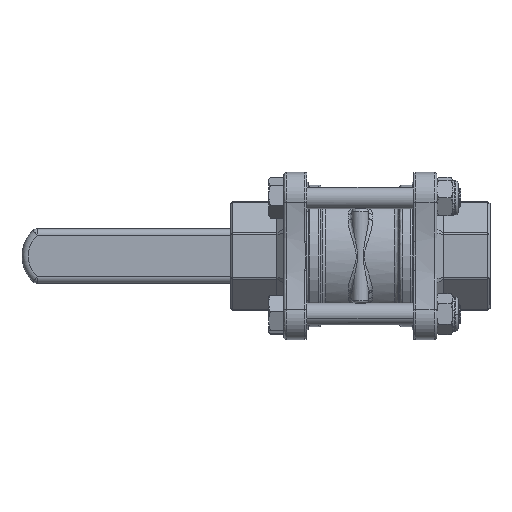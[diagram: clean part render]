
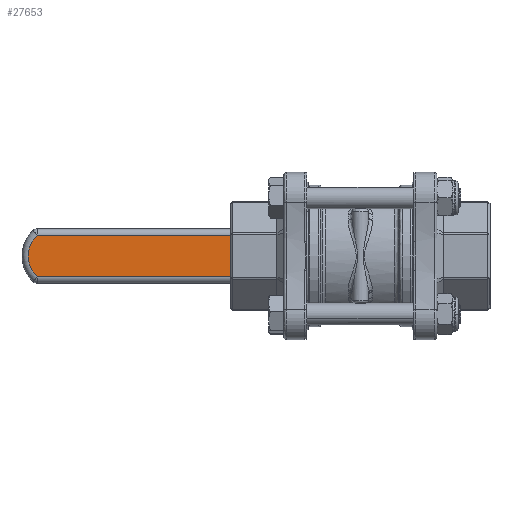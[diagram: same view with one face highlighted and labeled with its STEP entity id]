
A CAD part, front view. The second image highlights one B-rep face of the part: STEP entity #27653.
In plain terms, the highlighted planar face has unit normal (0, -1, 0).
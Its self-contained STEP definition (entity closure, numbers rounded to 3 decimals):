
#5847 = VERTEX_POINT ( 'NONE', #66354 ) ;
#13728 = DIRECTION ( 'NONE',  ( 0., 0., -1. ) ) ;
#13747 = CARTESIAN_POINT ( 'NONE',  ( 0., -2.5, -7.7 ) ) ;
#13781 = CARTESIAN_POINT ( 'NONE',  ( 82., -2.5, -7.7 ) ) ;
#13785 = DIRECTION ( 'NONE',  ( -1., 0., 0. ) ) ;
#13794 = CARTESIAN_POINT ( 'NONE',  ( 82., -2.5, 7.7 ) ) ;
#13797 = CARTESIAN_POINT ( 'NONE',  ( 69., -2.5, 0. ) ) ;
#13800 = DIRECTION ( 'NONE',  ( 0., -1., 0. ) ) ;
#13802 = DIRECTION ( 'NONE',  ( 0., 0., 1. ) ) ;
#13807 = DIRECTION ( 'NONE',  ( -1., 0., 0. ) ) ;
#18472 = ORIENTED_EDGE ( 'NONE', *, *, #69723, .F. ) ;
#18473 = ORIENTED_EDGE ( 'NONE', *, *, #69724, .T. ) ;
#18474 = ORIENTED_EDGE ( 'NONE', *, *, #69726, .T. ) ;
#18475 = ORIENTED_EDGE ( 'NONE', *, *, #69720, .T. ) ;
#27653 = ADVANCED_FACE ( 'NONE', ( #35515 ), #52931, .F. ) ;
#35515 = FACE_OUTER_BOUND ( 'NONE', #80173, .T. ) ;
#36428 = VERTEX_POINT ( 'NONE', #53139 ) ;
#41123 = LINE ( 'NONE', #13747, #41136 ) ;
#41133 = LINE ( 'NONE', #13794, #41157 ) ;
#41136 = VECTOR ( 'NONE', #13728, 1000. ) ;
#41140 = LINE ( 'NONE', #13781, #41146 ) ;
#41144 = CIRCLE ( 'NONE', #51148, 10.7 ) ;
#41146 = VECTOR ( 'NONE', #13785, 1000. ) ;
#41157 = VECTOR ( 'NONE', #13807, 1000. ) ;
#50850 = AXIS2_PLACEMENT_3D ( 'NONE', #52920, #52935, #52937 ) ;
#51148 = AXIS2_PLACEMENT_3D ( 'NONE', #13797, #13800, #13802 ) ;
#52920 = CARTESIAN_POINT ( 'NONE',  ( 82., -2.5, -7.7 ) ) ;
#52931 = PLANE ( 'NONE',  #50850 ) ;
#52935 = DIRECTION ( 'NONE',  ( 0., 1., 0. ) ) ;
#52937 = DIRECTION ( 'NONE',  ( 0., 0., 1. ) ) ;
#53139 = CARTESIAN_POINT ( 'NONE',  ( 76.43, -2.5, 7.7 ) ) ;
#66354 = CARTESIAN_POINT ( 'NONE',  ( 0., -2.5, 7.7 ) ) ;
#68270 = CARTESIAN_POINT ( 'NONE',  ( 76.43, -2.5, -7.7 ) ) ;
#68279 = CARTESIAN_POINT ( 'NONE',  ( 0., -2.5, -7.7 ) ) ;
#69720 = EDGE_CURVE ( 'NONE', #5847, #75705, #41123, .T. ) ;
#69723 = EDGE_CURVE ( 'NONE', #75697, #75705, #41140, .T. ) ;
#69724 = EDGE_CURVE ( 'NONE', #75697, #36428, #41144, .T. ) ;
#69726 = EDGE_CURVE ( 'NONE', #36428, #5847, #41133, .T. ) ;
#75697 = VERTEX_POINT ( 'NONE', #68270 ) ;
#75705 = VERTEX_POINT ( 'NONE', #68279 ) ;
#80173 = EDGE_LOOP ( 'NONE', ( #18472, #18473, #18474, #18475 ) ) ;
